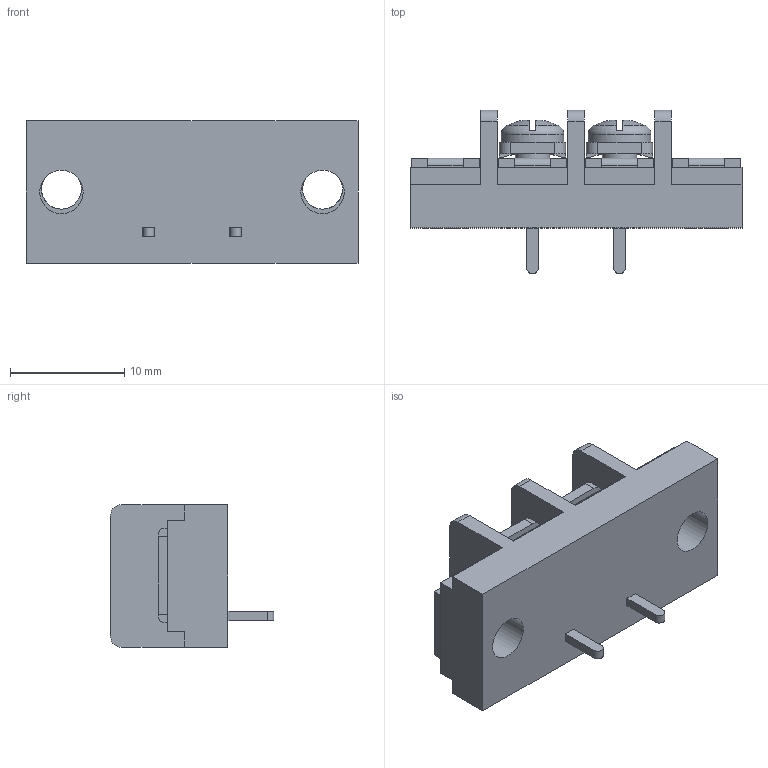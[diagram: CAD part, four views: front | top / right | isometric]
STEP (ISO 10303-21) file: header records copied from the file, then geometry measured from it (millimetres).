
FILE_DESCRIPTION(/* description */ ('Alibre Inc.'),/* implementation_level */ '2;1');
FILE_NAME(/* name */ 'export0',/* time_stamp */ '2015-10-26T17:28:53+09:00',/* author */ (''),/* organization */ (''),/* preprocessor_version */ 'ST-DEVELOPER v14',/* originating_system */ 'Alibre',/* authorisation */ '');
FILE_SCHEMA (('CONFIG_CONTROL_DESIGN'));
Length unit declared in the file: centimetre
Products named in the file (1): ID_1
Bounding box: 29.06 x 14.3 x 12.5 mm (x, y, z)
Volume: 2259.7 mm3; surface area: 2145 mm2
Topology: 1 solids, 17 shells, 632 faces, 1682 edges, 1114 vertices
Faces by surface type: plane 478, bspline 104, cylinder 34, cone 8, torus 4, sphere 4
Full cylindrical faces by diameter (mm): 3 x2, 3.5 x2, 3.8 x2, 5.5 x2
Entity records: 18799 total; most frequent: CARTESIAN_POINT 4451, ORIENTED_EDGE 3316, DIRECTION 2060, EDGE_CURVE 1658, VECTOR 1256, LINE 1256, VERTEX_POINT 1102, EDGE_LOOP 686
